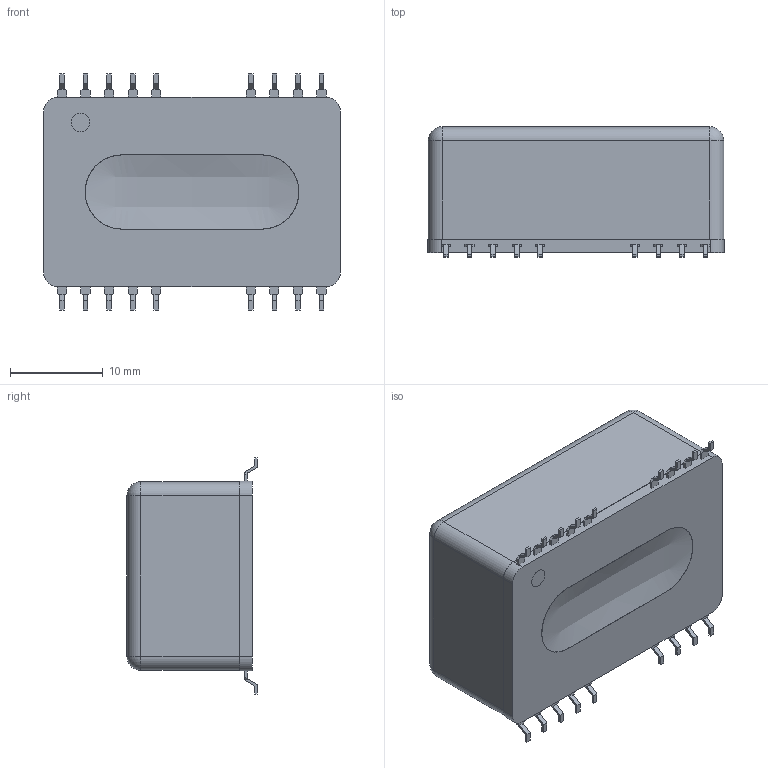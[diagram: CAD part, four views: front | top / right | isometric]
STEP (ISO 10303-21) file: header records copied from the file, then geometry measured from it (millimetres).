
FILE_DESCRIPTION (( 'STEP AP214' ), '1' );
FILE_NAME ('EC3AB (SMD).STEP', '2018-01-22T09:42:00', ( 'cincon' ), ( '' ), 'SwSTEP 2.0', 'SolidWorks 2008', '' );
FILE_SCHEMA (( 'AUTOMOTIVE_DESIGN' ));
Length unit declared in the file: millimetre
Products named in the file (4): DV32BB (SMD) MS-1060104; DV32BB CASE (SMD)-1060104_預設; DV32BB (SMD) MS-IN-1060104; EC3AB (SMD)
Assembly tree (3 placements, depth 2):
  EC3AB (SMD)
    DV32BB (SMD) MS-1060104
    DV32BB (SMD) MS-IN-1060104
    DV32BB CASE (SMD)-1060104_預設
Bounding box: 31.9 x 14 x 25.4 mm (x, y, z)
Volume: 8990.7 mm3; surface area: 8830.3 mm2
Topology: 22 solids, 22 shells, 502 faces, 1318 edges, 854 vertices
Faces by surface type: plane 449, cylinder 40, sphere 12, bspline 1
Entity records: 15912 total; most frequent: CARTESIAN_POINT 3305, ORIENTED_EDGE 2612, DIRECTION 2366, EDGE_CURVE 1306, VECTOR 1184, LINE 1184, VERTEX_POINT 854, AXIS2_PLACEMENT_3D 591
